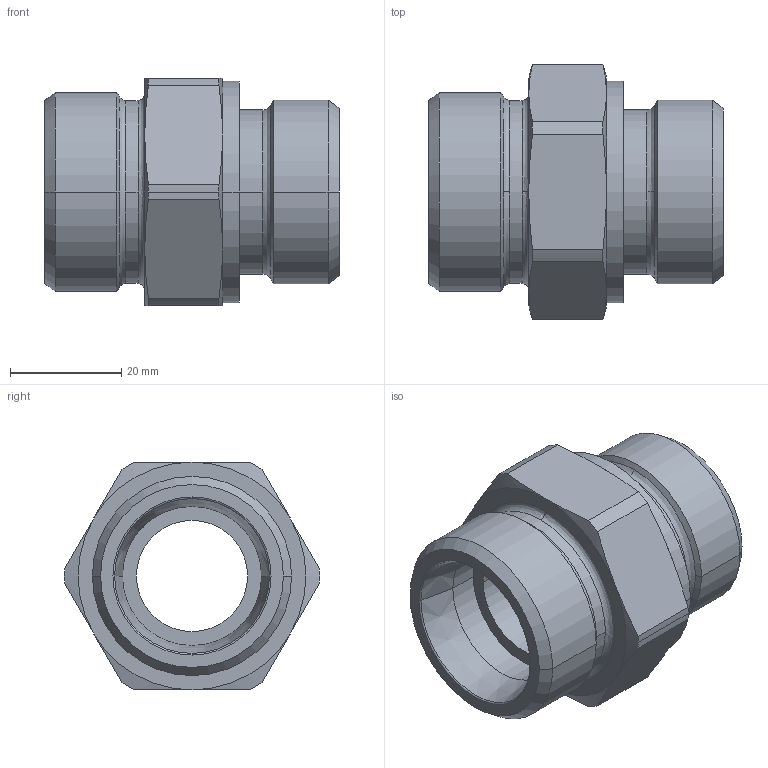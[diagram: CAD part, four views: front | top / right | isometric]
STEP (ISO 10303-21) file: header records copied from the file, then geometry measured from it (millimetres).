
FILE_DESCRIPTION((''),'2;1');
FILE_NAME('100521.stp','2007-10-30T14:15:32',(''),(''),'AutoCAD STEP 2000i','AutoCAD 2000i',', , ');
FILE_SCHEMA(('CONFIG_CONTROL_DESIGN'));
Length unit declared in the file: millimetre
Products named in the file (2): 100521.0; CHIAVE SMUSSATA#0
Assembly tree (1 placements, depth 2):
  100521.0
    CHIAVE SMUSSATA#0
Bounding box: 53 x 45.9 x 41 mm (x, y, z)
Volume: 35662.3 mm3; surface area: 12208.5 mm2
Topology: 1 solids, 1 shells, 75 faces, 185 edges, 117 vertices
Faces by surface type: cylinder 24, cone 24, plane 13, bspline 12, torus 2
Entity records: 2835 total; most frequent: CARTESIAN_POINT 955, DIRECTION 410, ORIENTED_EDGE 370, EDGE_CURVE 185, AXIS2_PLACEMENT_3D 184, CIRCLE 119, VERTEX_POINT 117, EDGE_LOOP 82
